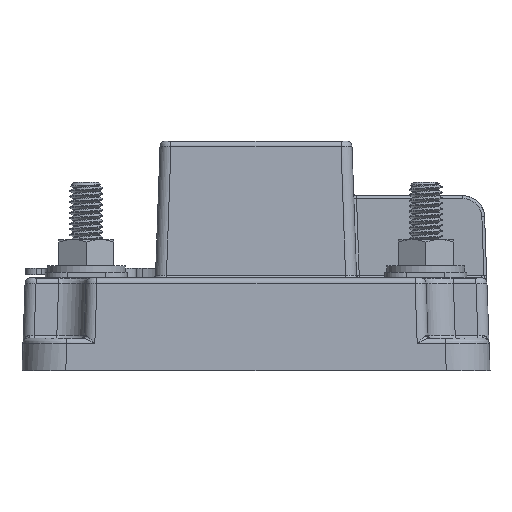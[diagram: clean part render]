
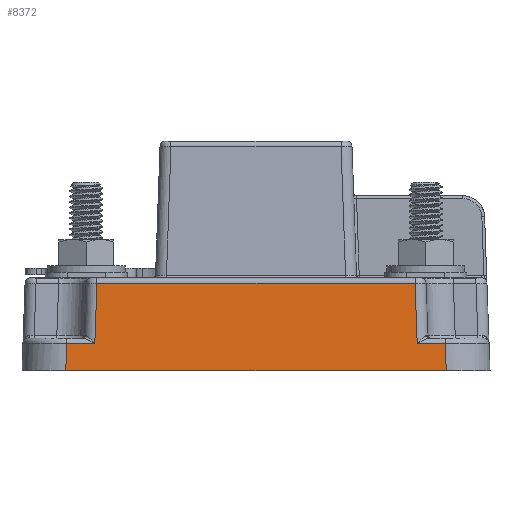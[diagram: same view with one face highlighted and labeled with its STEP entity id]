
A CAD part, front view. The second image highlights one B-rep face of the part: STEP entity #8372.
In plain terms, the highlighted planar face has unit normal (0, -0.999, 0.035).
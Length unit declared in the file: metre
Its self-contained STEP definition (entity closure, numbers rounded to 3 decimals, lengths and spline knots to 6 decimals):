
#755=LINE('',#12828,#1393);
#861=LINE('',#13142,#1499);
#862=LINE('',#13144,#1500);
#863=LINE('',#13146,#1501);
#864=LINE('',#13147,#1502);
#865=LINE('',#13148,#1503);
#866=LINE('',#13150,#1504);
#867=LINE('',#13152,#1505);
#1393=VECTOR('',#10087,1.);
#1499=VECTOR('',#10317,1.);
#1500=VECTOR('',#10318,1.);
#1501=VECTOR('',#10319,1.);
#1502=VECTOR('',#10320,1.);
#1503=VECTOR('',#10321,1.);
#1504=VECTOR('',#10322,1.);
#1505=VECTOR('',#10323,1.);
#2363=ORIENTED_EDGE('',*,*,#4880,.T.);
#2364=ORIENTED_EDGE('',*,*,#4881,.T.);
#2365=ORIENTED_EDGE('',*,*,#4882,.T.);
#2366=ORIENTED_EDGE('',*,*,#4883,.T.);
#2367=ORIENTED_EDGE('',*,*,#4884,.T.);
#2368=ORIENTED_EDGE('',*,*,#4885,.T.);
#2369=ORIENTED_EDGE('',*,*,#4886,.T.);
#2370=ORIENTED_EDGE('',*,*,#4732,.T.);
#4732=EDGE_CURVE('',#6011,#6010,#755,.F.);
#4880=EDGE_CURVE('',#6010,#6120,#861,.F.);
#4881=EDGE_CURVE('',#6120,#6121,#862,.T.);
#4882=EDGE_CURVE('',#6121,#5976,#863,.F.);
#4883=EDGE_CURVE('',#5976,#5980,#864,.F.);
#4884=EDGE_CURVE('',#5980,#6122,#865,.F.);
#4885=EDGE_CURVE('',#6122,#6123,#866,.T.);
#4886=EDGE_CURVE('',#6123,#6011,#867,.F.);
#5976=VERTEX_POINT('',#12682);
#5980=VERTEX_POINT('',#12712);
#6010=VERTEX_POINT('',#12827);
#6011=VERTEX_POINT('',#12829);
#6120=VERTEX_POINT('',#13143);
#6121=VERTEX_POINT('',#13145);
#6122=VERTEX_POINT('',#13149);
#6123=VERTEX_POINT('',#13151);
#7010=EDGE_LOOP('',(#2363,#2364,#2365,#2366,#2367,#2368,#2369,#2370));
#7589=FACE_BOUND('',#7010,.T.);
#8138=PLANE('',#9029);
#8372=ADVANCED_FACE('',(#7589),#8138,.T.);
#9029=AXIS2_PLACEMENT_3D('',#13141,#10315,#10316);
#10087=DIRECTION('',(-1.,0.,0.));
#10315=DIRECTION('',(0.,-0.999,0.035));
#10316=DIRECTION('',(0.,-0.035,-0.999));
#10317=DIRECTION('',(0.035,-0.035,-0.999));
#10318=DIRECTION('',(-1.,0.,0.));
#10319=DIRECTION('',(0.035,-0.035,-0.999));
#10320=DIRECTION('',(1.,0.,0.));
#10321=DIRECTION('',(0.035,0.035,0.999));
#10322=DIRECTION('',(-1.,0.,0.));
#10323=DIRECTION('',(0.035,0.035,0.999));
#12682=CARTESIAN_POINT('',(0.029061,-0.03744,0.005035));
#12712=CARTESIAN_POINT('',(-0.029061,-0.03744,0.005035));
#12827=CARTESIAN_POINT('',(0.034755,-0.038,-0.011));
#12828=CARTESIAN_POINT('',(0.,-0.038,-0.011));
#12829=CARTESIAN_POINT('',(-0.034755,-0.038,-0.011));
#13141=CARTESIAN_POINT('',(0.,-0.038,-0.011));
#13142=CARTESIAN_POINT('',(0.034555,-0.0378,-0.005279));
#13143=CARTESIAN_POINT('',(0.034579,-0.037824,-0.005965));
#13144=CARTESIAN_POINT('',(0.029412,-0.037824,-0.005965));
#13145=CARTESIAN_POINT('',(0.029446,-0.037824,-0.005965));
#13146=CARTESIAN_POINT('',(0.029585,-0.037964,-0.009968));
#13147=CARTESIAN_POINT('',(-0.029028,-0.03744,0.005035));
#13148=CARTESIAN_POINT('',(-0.029414,-0.037793,-0.00507));
#13149=CARTESIAN_POINT('',(-0.029446,-0.037824,-0.005965));
#13150=CARTESIAN_POINT('',(-0.034545,-0.037824,-0.005965));
#13151=CARTESIAN_POINT('',(-0.034579,-0.037824,-0.005965));
#13152=CARTESIAN_POINT('',(-0.034713,-0.037958,-0.009789));
